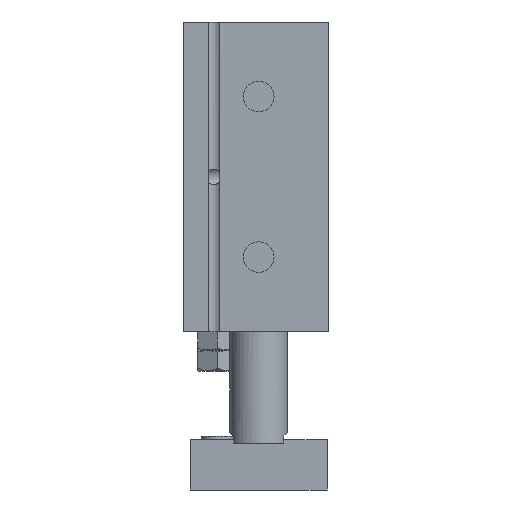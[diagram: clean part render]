
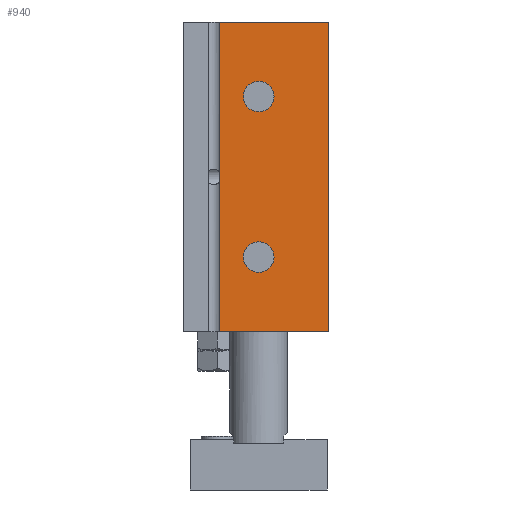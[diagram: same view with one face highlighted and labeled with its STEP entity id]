
A CAD part, front view. The second image highlights one B-rep face of the part: STEP entity #940.
In plain terms, the highlighted planar face has unit normal (0, -1, 0).
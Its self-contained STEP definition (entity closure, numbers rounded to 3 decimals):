
#778=CARTESIAN_POINT('',(-11.,-48.,130.0));
#779=VERTEX_POINT('',#778);
#787=CARTESIAN_POINT('',(-11.,-48.,44.));
#788=VERTEX_POINT('',#787);
#795=CARTESIAN_POINT('',(-11.,-48.,130.0));
#796=DIRECTION('',(0.0,0.0,-1.0));
#797=VECTOR('',#796,86.);
#798=LINE('',#795,#797);
#799=EDGE_CURVE('',#779,#788,#798,.T.);
#888=CARTESIAN_POINT('',(19.5,-48.,44.0));
#889=DIRECTION('',(0.0,-1.0,0.0));
#890=DIRECTION('',(0.0,0.0,-1.0));
#891=AXIS2_PLACEMENT_3D('',#888,#889,#890);
#892=PLANE('',#891);
#893=ORIENTED_EDGE('',*,*,#799,.T.);
#894=CARTESIAN_POINT('',(19.5,-48.,44.0));
#895=VERTEX_POINT('',#894);
#896=CARTESIAN_POINT('',(19.5,-48.,44.0));
#897=DIRECTION('',(-1.0,0.0,0.0));
#898=VECTOR('',#897,30.5);
#899=LINE('',#896,#898);
#900=EDGE_CURVE('',#895,#788,#899,.T.);
#901=ORIENTED_EDGE('',*,*,#900,.F.);
#902=CARTESIAN_POINT('',(19.5,-48.,130.0));
#903=VERTEX_POINT('',#902);
#904=CARTESIAN_POINT('',(19.5,-48.,44.0));
#905=DIRECTION('',(0.0,0.0,1.0));
#906=VECTOR('',#905,86.0);
#907=LINE('',#904,#906);
#908=EDGE_CURVE('',#895,#903,#907,.T.);
#909=ORIENTED_EDGE('',*,*,#908,.T.);
#910=CARTESIAN_POINT('',(19.5,-48.,130.0));
#911=DIRECTION('',(-1.0,0.0,0.0));
#912=VECTOR('',#911,30.5);
#913=LINE('',#910,#912);
#914=EDGE_CURVE('',#903,#779,#913,.T.);
#915=ORIENTED_EDGE('',*,*,#914,.T.);
#916=EDGE_LOOP('',(#893,#901,#909,#915));
#917=FACE_OUTER_BOUND('',#916,.T.);
#918=CARTESIAN_POINT('',(4.25,-48.,109.3));
#919=VERTEX_POINT('',#918);
#920=CARTESIAN_POINT('',(0.0,-48.,109.3));
#921=DIRECTION('',(0.0,1.0,0.0));
#922=DIRECTION('',(-1.0,0.0,0.0));
#923=AXIS2_PLACEMENT_3D('',#920,#921,#922);
#924=CIRCLE('',#923,4.25);
#925=EDGE_CURVE('',#919,#919,#924,.T.);
#926=ORIENTED_EDGE('',*,*,#925,.T.);
#927=EDGE_LOOP('',(#926));
#928=FACE_BOUND('',#927,.T.);
#929=CARTESIAN_POINT('',(4.25,-48.,64.7));
#930=VERTEX_POINT('',#929);
#931=CARTESIAN_POINT('',(0.0,-48.,64.7));
#932=DIRECTION('',(0.0,1.0,0.0));
#933=DIRECTION('',(-1.0,0.0,0.0));
#934=AXIS2_PLACEMENT_3D('',#931,#932,#933);
#935=CIRCLE('',#934,4.25);
#936=EDGE_CURVE('',#930,#930,#935,.T.);
#937=ORIENTED_EDGE('',*,*,#936,.T.);
#938=EDGE_LOOP('',(#937));
#939=FACE_BOUND('',#938,.T.);
#940=ADVANCED_FACE('',(#917,#928,#939),#892,.T.);
